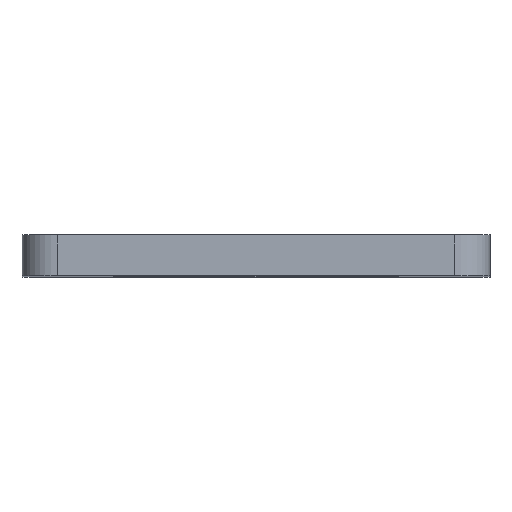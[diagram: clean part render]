
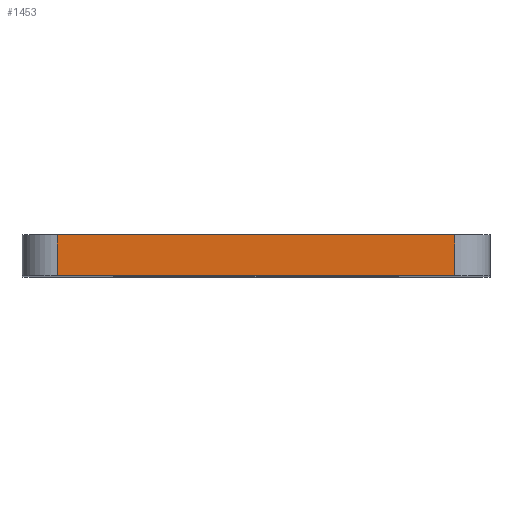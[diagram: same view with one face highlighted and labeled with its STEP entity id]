
A CAD part, top view. The second image highlights one B-rep face of the part: STEP entity #1453.
In plain terms, the highlighted planar face has unit normal (0, 0, 1).
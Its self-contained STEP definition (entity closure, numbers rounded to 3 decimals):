
#44 = PLANE('',#45);
#45 = AXIS2_PLACEMENT_3D('',#46,#47,#48);
#46 = CARTESIAN_POINT('',(-16.5,-8.,-36.));
#47 = DIRECTION('',(0.,1.,0.));
#48 = DIRECTION('',(0.,0.,1.));
#100 = PLANE('',#101);
#101 = AXIS2_PLACEMENT_3D('',#102,#103,#104);
#102 = CARTESIAN_POINT('',(-16.5,-4.5,-36.));
#103 = DIRECTION('',(0.,1.,0.));
#104 = DIRECTION('',(0.,0.,1.));
#126 = CYLINDRICAL_SURFACE('',#127,3.);
#127 = AXIS2_PLACEMENT_3D('',#128,#129,#130);
#128 = CARTESIAN_POINT('',(-13.5,-8.,33.));
#129 = DIRECTION('',(0.,1.,0.));
#130 = DIRECTION('',(-1.,0.,0.));
#199 = VERTEX_POINT('',#200);
#200 = CARTESIAN_POINT('',(-13.5,-8.,36.));
#222 = EDGE_CURVE('',#199,#223,#225,.T.);
#223 = VERTEX_POINT('',#224);
#224 = CARTESIAN_POINT('',(20.5,-8.,36.));
#225 = SURFACE_CURVE('',#226,(#230,#237),.PCURVE_S1.);
#226 = LINE('',#227,#228);
#227 = CARTESIAN_POINT('',(-16.5,-8.,36.));
#228 = VECTOR('',#229,1.);
#229 = DIRECTION('',(1.,0.,0.));
#230 = PCURVE('',#44,#231);
#231 = DEFINITIONAL_REPRESENTATION('',(#232),#236);
#232 = LINE('',#233,#234);
#233 = CARTESIAN_POINT('',(72.,0.));
#234 = VECTOR('',#235,1.);
#235 = DIRECTION('',(0.,1.));
#236 = ( GEOMETRIC_REPRESENTATION_CONTEXT(2) 
PARAMETRIC_REPRESENTATION_CONTEXT() REPRESENTATION_CONTEXT('2D SPACE',''
  ) );
#237 = PCURVE('',#238,#243);
#238 = PLANE('',#239);
#239 = AXIS2_PLACEMENT_3D('',#240,#241,#242);
#240 = CARTESIAN_POINT('',(-16.5,-8.,36.));
#241 = DIRECTION('',(0.,0.,1.));
#242 = DIRECTION('',(1.,0.,0.));
#243 = DEFINITIONAL_REPRESENTATION('',(#244),#248);
#244 = LINE('',#245,#246);
#245 = CARTESIAN_POINT('',(0.,0.));
#246 = VECTOR('',#247,1.);
#247 = DIRECTION('',(1.,0.));
#248 = ( GEOMETRIC_REPRESENTATION_CONTEXT(2) 
PARAMETRIC_REPRESENTATION_CONTEXT() REPRESENTATION_CONTEXT('2D SPACE',''
  ) );
#271 = CYLINDRICAL_SURFACE('',#272,3.);
#272 = AXIS2_PLACEMENT_3D('',#273,#274,#275);
#273 = CARTESIAN_POINT('',(20.5,-8.,33.));
#274 = DIRECTION('',(0.,1.,0.));
#275 = DIRECTION('',(1.,0.,-0.));
#626 = EDGE_CURVE('',#199,#627,#629,.T.);
#627 = VERTEX_POINT('',#628);
#628 = CARTESIAN_POINT('',(-13.5,-4.5,36.));
#629 = SURFACE_CURVE('',#630,(#634,#641),.PCURVE_S1.);
#630 = LINE('',#631,#632);
#631 = CARTESIAN_POINT('',(-13.5,-8.,36.));
#632 = VECTOR('',#633,1.);
#633 = DIRECTION('',(0.,1.,0.));
#634 = PCURVE('',#126,#635);
#635 = DEFINITIONAL_REPRESENTATION('',(#636),#640);
#636 = LINE('',#637,#638);
#637 = CARTESIAN_POINT('',(1.571,0.));
#638 = VECTOR('',#639,1.);
#639 = DIRECTION('',(0.,1.));
#640 = ( GEOMETRIC_REPRESENTATION_CONTEXT(2) 
PARAMETRIC_REPRESENTATION_CONTEXT() REPRESENTATION_CONTEXT('2D SPACE',''
  ) );
#641 = PCURVE('',#238,#642);
#642 = DEFINITIONAL_REPRESENTATION('',(#643),#647);
#643 = LINE('',#644,#645);
#644 = CARTESIAN_POINT('',(3.,0.));
#645 = VECTOR('',#646,1.);
#646 = DIRECTION('',(0.,1.));
#647 = ( GEOMETRIC_REPRESENTATION_CONTEXT(2) 
PARAMETRIC_REPRESENTATION_CONTEXT() REPRESENTATION_CONTEXT('2D SPACE',''
  ) );
#701 = EDGE_CURVE('',#627,#702,#704,.T.);
#702 = VERTEX_POINT('',#703);
#703 = CARTESIAN_POINT('',(20.5,-4.5,36.));
#704 = SURFACE_CURVE('',#705,(#709,#716),.PCURVE_S1.);
#705 = LINE('',#706,#707);
#706 = CARTESIAN_POINT('',(-16.5,-4.5,36.));
#707 = VECTOR('',#708,1.);
#708 = DIRECTION('',(1.,0.,0.));
#709 = PCURVE('',#100,#710);
#710 = DEFINITIONAL_REPRESENTATION('',(#711),#715);
#711 = LINE('',#712,#713);
#712 = CARTESIAN_POINT('',(72.,0.));
#713 = VECTOR('',#714,1.);
#714 = DIRECTION('',(0.,1.));
#715 = ( GEOMETRIC_REPRESENTATION_CONTEXT(2) 
PARAMETRIC_REPRESENTATION_CONTEXT() REPRESENTATION_CONTEXT('2D SPACE',''
  ) );
#716 = PCURVE('',#238,#717);
#717 = DEFINITIONAL_REPRESENTATION('',(#718),#722);
#718 = LINE('',#719,#720);
#719 = CARTESIAN_POINT('',(0.,3.5));
#720 = VECTOR('',#721,1.);
#721 = DIRECTION('',(1.,0.));
#722 = ( GEOMETRIC_REPRESENTATION_CONTEXT(2) 
PARAMETRIC_REPRESENTATION_CONTEXT() REPRESENTATION_CONTEXT('2D SPACE',''
  ) );
#1431 = EDGE_CURVE('',#223,#702,#1432,.T.);
#1432 = SURFACE_CURVE('',#1433,(#1437,#1444),.PCURVE_S1.);
#1433 = LINE('',#1434,#1435);
#1434 = CARTESIAN_POINT('',(20.5,-8.,36.));
#1435 = VECTOR('',#1436,1.);
#1436 = DIRECTION('',(0.,1.,0.));
#1437 = PCURVE('',#271,#1438);
#1438 = DEFINITIONAL_REPRESENTATION('',(#1439),#1443);
#1439 = LINE('',#1440,#1441);
#1440 = CARTESIAN_POINT('',(-1.571,0.));
#1441 = VECTOR('',#1442,1.);
#1442 = DIRECTION('',(-0.,1.));
#1443 = ( GEOMETRIC_REPRESENTATION_CONTEXT(2) 
PARAMETRIC_REPRESENTATION_CONTEXT() REPRESENTATION_CONTEXT('2D SPACE',''
  ) );
#1444 = PCURVE('',#238,#1445);
#1445 = DEFINITIONAL_REPRESENTATION('',(#1446),#1450);
#1446 = LINE('',#1447,#1448);
#1447 = CARTESIAN_POINT('',(37.,0.));
#1448 = VECTOR('',#1449,1.);
#1449 = DIRECTION('',(0.,1.));
#1450 = ( GEOMETRIC_REPRESENTATION_CONTEXT(2) 
PARAMETRIC_REPRESENTATION_CONTEXT() REPRESENTATION_CONTEXT('2D SPACE',''
  ) );
#1453 = ADVANCED_FACE('',(#1454),#238,.T.);
#1454 = FACE_BOUND('',#1455,.T.);
#1455 = EDGE_LOOP('',(#1456,#1457,#1458,#1459));
#1456 = ORIENTED_EDGE('',*,*,#701,.F.);
#1457 = ORIENTED_EDGE('',*,*,#626,.F.);
#1458 = ORIENTED_EDGE('',*,*,#222,.T.);
#1459 = ORIENTED_EDGE('',*,*,#1431,.T.);
